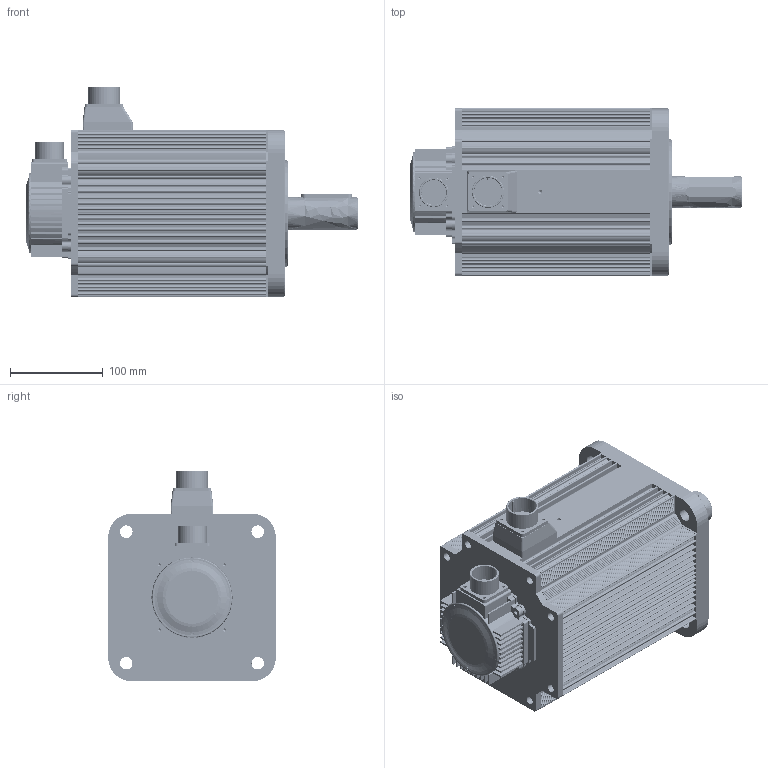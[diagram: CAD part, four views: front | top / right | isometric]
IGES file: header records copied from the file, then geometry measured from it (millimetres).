
Start section: SolidWorks IGES file using analytic representation for surfaces
Global section: file name: Z:\Products\Servo\Servo Motor\EMG-50-A22\UMM-0050EA-B3_UMM-0050CA-B3_(02).IGS; native system: SolidWorks 2020; preprocessor: SolidWorks 2020; author: LaorB; date: 211229.201024; units: millimetre
Bounding box: 357 x 180 x 226.1 mm (x, y, z)
Surface area: 659846.4 mm2 (no closed solid volume)
Topology: 0 solids, 0 shells, 2659 faces, 35268 edges, 35214 vertices
Faces by surface type: bspline 1551, revolution 1108
